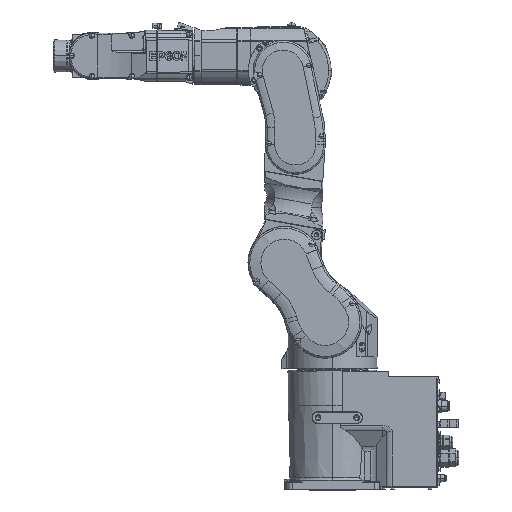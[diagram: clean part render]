
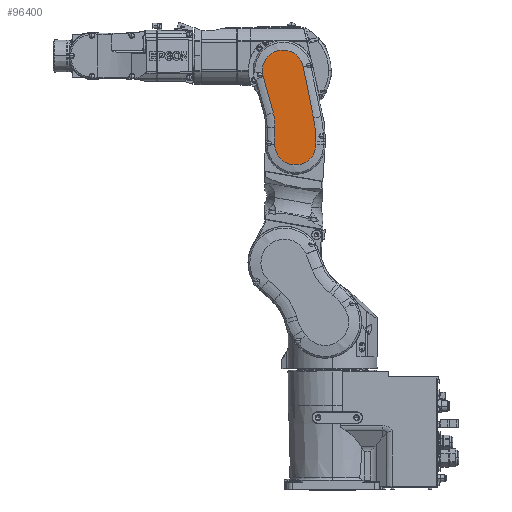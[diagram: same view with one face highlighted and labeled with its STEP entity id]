
A CAD part, top view. The second image highlights one B-rep face of the part: STEP entity #96400.
In plain terms, the highlighted planar face has unit normal (0, 0, 1) as drawn and (0, 0, -1) by its records, which use the part's own axes.
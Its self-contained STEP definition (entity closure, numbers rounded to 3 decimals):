
#276 = CARTESIAN_POINT ( 'NONE',  ( 19.946, 281.011, -107. ) ) ;
#1167 = CARTESIAN_POINT ( 'NONE',  ( 22.737, 311.617, -107. ) ) ;
#10576 = DIRECTION ( 'NONE',  ( 1., 0., 0. ) ) ;
#17540 = EDGE_CURVE ( 'NONE', #94371, #166221, #146482, .T. ) ;
#17775 = CARTESIAN_POINT ( 'NONE',  ( 22.931, 311.563, -107. ) ) ;
#18325 = AXIS2_PLACEMENT_3D ( 'NONE', #132517, #130699, #88824 ) ;
#18536 = CIRCLE ( 'NONE', #122327, 169.25 ) ;
#19059 = ORIENTED_EDGE ( 'NONE', *, *, #133950, .F. ) ;
#21298 = VERTEX_POINT ( 'NONE', #83128 ) ;
#22760 = ORIENTED_EDGE ( 'NONE', *, *, #58172, .T. ) ;
#23553 = DIRECTION ( 'NONE',  ( 0., 0., -1. ) ) ;
#24761 = DIRECTION ( 'NONE',  ( 0., -1., 0. ) ) ;
#25541 = ORIENTED_EDGE ( 'NONE', *, *, #46750, .T. ) ;
#26791 = AXIS2_PLACEMENT_3D ( 'NONE', #112728, #139669, #39410 ) ;
#27270 = DIRECTION ( 'NONE',  ( 0., 0., -1. ) ) ;
#27840 = ORIENTED_EDGE ( 'NONE', *, *, #61362, .T. ) ;
#30223 = ORIENTED_EDGE ( 'NONE', *, *, #126454, .F. ) ;
#31875 = VECTOR ( 'NONE', #37336, 1000. ) ;
#33283 = CARTESIAN_POINT ( 'NONE',  ( 29.991, 337.002, -107. ) ) ;
#36410 = CARTESIAN_POINT ( 'NONE',  ( 19.946, 246., -107. ) ) ;
#37336 = DIRECTION ( 'NONE',  ( 0., 1., 0. ) ) ;
#38426 = CARTESIAN_POINT ( 'NONE',  ( 2.916, 399.311, -107. ) ) ;
#39410 = DIRECTION ( 'NONE',  ( -1., 0., 0. ) ) ;
#40983 = CARTESIAN_POINT ( 'NONE',  ( -60.598, 300.694, -107. ) ) ;
#42750 = EDGE_CURVE ( 'NONE', #21298, #103464, #122259, .T. ) ;
#43919 = B_SPLINE_CURVE_WITH_KNOTS ( 'NONE', 3,
 ( #143809, #74108, #33283, #89834 ),
 .UNSPECIFIED., .F., .F.,
 ( 4, 4 ),
 ( 0., 1. ),
 .UNSPECIFIED. ) ;
#46750 = EDGE_CURVE ( 'NONE', #183441, #94371, #68833, .T. ) ;
#47532 = EDGE_CURVE ( 'NONE', #21298, #183441, #97921, .T. ) ;
#50476 = CARTESIAN_POINT ( 'NONE',  ( -22.804, 246., -107. ) ) ;
#58172 = EDGE_CURVE ( 'NONE', #60993, #103464, #124214, .T. ) ;
#60993 = VERTEX_POINT ( 'NONE', #177482 ) ;
#61362 = EDGE_CURVE ( 'NONE', #180820, #74791, #18536, .T. ) ;
#63018 = EDGE_LOOP ( 'NONE', ( #27840, #30223, #22760, #106038, #143457, #25541, #135967, #100510, #19059 ) ) ;
#66449 = AXIS2_PLACEMENT_3D ( 'NONE', #38426, #27270, #69049 ) ;
#68015 = VECTOR ( 'NONE', #84539, 1000. ) ;
#68833 = LINE ( 'NONE', #40983, #68015 ) ;
#69049 = DIRECTION ( 'NONE',  ( -0.98, 0.198, 0. ) ) ;
#74012 = FACE_OUTER_BOUND ( 'NONE', #63018, .T. ) ;
#74108 = CARTESIAN_POINT ( 'NONE',  ( 37.05, 362.44, -107. ) ) ;
#74791 = VERTEX_POINT ( 'NONE', #276 ) ;
#82546 = DIRECTION ( 'NONE',  ( 0., 0., 1. ) ) ;
#82569 = EDGE_CURVE ( 'NONE', #166221, #91386, #43919, .T. ) ;
#83128 = CARTESIAN_POINT ( 'NONE',  ( -65.554, 251.089, -107. ) ) ;
#84539 = DIRECTION ( 'NONE',  ( 0.198, 0.98, 0. ) ) ;
#87691 = CARTESIAN_POINT ( 'NONE',  ( 22.866, 311.581, -107. ) ) ;
#88600 = CARTESIAN_POINT ( 'NONE',  ( 22.931, 311.563, -107. ) ) ;
#88824 = DIRECTION ( 'NONE',  ( 1., 0., 0. ) ) ;
#89834 = CARTESIAN_POINT ( 'NONE',  ( 22.931, 311.563, -107. ) ) ;
#90651 = PLANE ( 'NONE',  #18325 ) ;
#91386 = VERTEX_POINT ( 'NONE', #17775 ) ;
#94371 = VERTEX_POINT ( 'NONE', #154989 ) ;
#96400 = ADVANCED_FACE ( 'NONE', ( #74012 ), #90651, .F. ) ;
#97414 = CARTESIAN_POINT ( 'NONE',  ( 189.196, 281.011, -107. ) ) ;
#97921 = CIRCLE ( 'NONE', #26791, 250.75 ) ;
#100510 = ORIENTED_EDGE ( 'NONE', *, *, #82569, .T. ) ;
#100806 = B_SPLINE_CURVE_WITH_KNOTS ( 'NONE', 3,
 ( #144411, #168829, #87691, #88600 ),
 .UNSPECIFIED., .F., .F.,
 ( 4, 4 ),
 ( 0., 1. ),
 .UNSPECIFIED. ) ;
#103464 = VERTEX_POINT ( 'NONE', #113930 ) ;
#106038 = ORIENTED_EDGE ( 'NONE', *, *, #42750, .F. ) ;
#112728 = CARTESIAN_POINT ( 'NONE',  ( 185.196, 251.089, -107. ) ) ;
#113930 = CARTESIAN_POINT ( 'NONE',  ( -65.554, 246., -107. ) ) ;
#119900 = CARTESIAN_POINT ( 'NONE',  ( -60.598, 300.694, -107. ) ) ;
#122259 = LINE ( 'NONE', #178828, #138193 ) ;
#122327 = AXIS2_PLACEMENT_3D ( 'NONE', #97414, #82546, #139240 ) ;
#124214 = CIRCLE ( 'NONE', #147913, 42.75 ) ;
#126454 = EDGE_CURVE ( 'NONE', #60993, #74791, #164516, .T. ) ;
#130699 = DIRECTION ( 'NONE',  ( 0., 0., 1. ) ) ;
#132517 = CARTESIAN_POINT ( 'NONE',  ( -22.804, 246., -107. ) ) ;
#133950 = EDGE_CURVE ( 'NONE', #180820, #91386, #100806, .T. ) ;
#135967 = ORIENTED_EDGE ( 'NONE', *, *, #17540, .T. ) ;
#138193 = VECTOR ( 'NONE', #24761, 1000. ) ;
#139240 = DIRECTION ( 'NONE',  ( -0.984, 0.181, 0. ) ) ;
#139669 = DIRECTION ( 'NONE',  ( 0., 0., -1. ) ) ;
#142231 = CARTESIAN_POINT ( 'NONE',  ( 44.11, 387.879, -107. ) ) ;
#143457 = ORIENTED_EDGE ( 'NONE', *, *, #47532, .T. ) ;
#143809 = CARTESIAN_POINT ( 'NONE',  ( 44.11, 387.879, -107. ) ) ;
#144411 = CARTESIAN_POINT ( 'NONE',  ( 22.737, 311.617, -107. ) ) ;
#146482 = CIRCLE ( 'NONE', #66449, 42.75 ) ;
#147913 = AXIS2_PLACEMENT_3D ( 'NONE', #50476, #23553, #10576 ) ;
#154989 = CARTESIAN_POINT ( 'NONE',  ( -38.989, 407.768, -107. ) ) ;
#164516 = LINE ( 'NONE', #36410, #31875 ) ;
#166221 = VERTEX_POINT ( 'NONE', #142231 ) ;
#168829 = CARTESIAN_POINT ( 'NONE',  ( 22.801, 311.599, -107. ) ) ;
#177482 = CARTESIAN_POINT ( 'NONE',  ( 19.946, 246., -107. ) ) ;
#178828 = CARTESIAN_POINT ( 'NONE',  ( -65.554, 251.089, -107. ) ) ;
#180820 = VERTEX_POINT ( 'NONE', #1167 ) ;
#183441 = VERTEX_POINT ( 'NONE', #119900 ) ;
